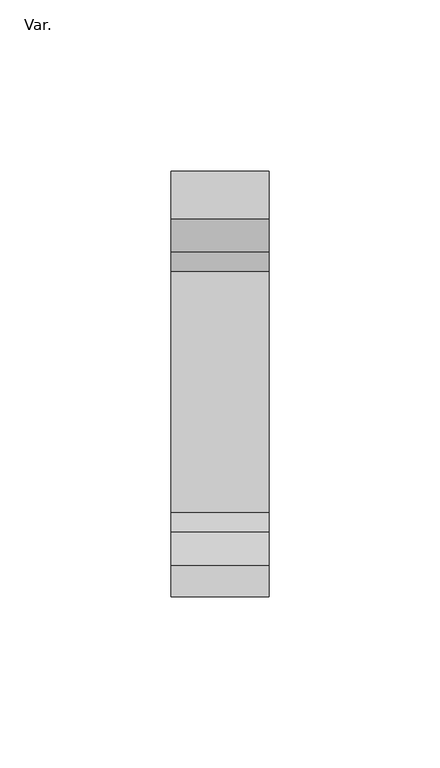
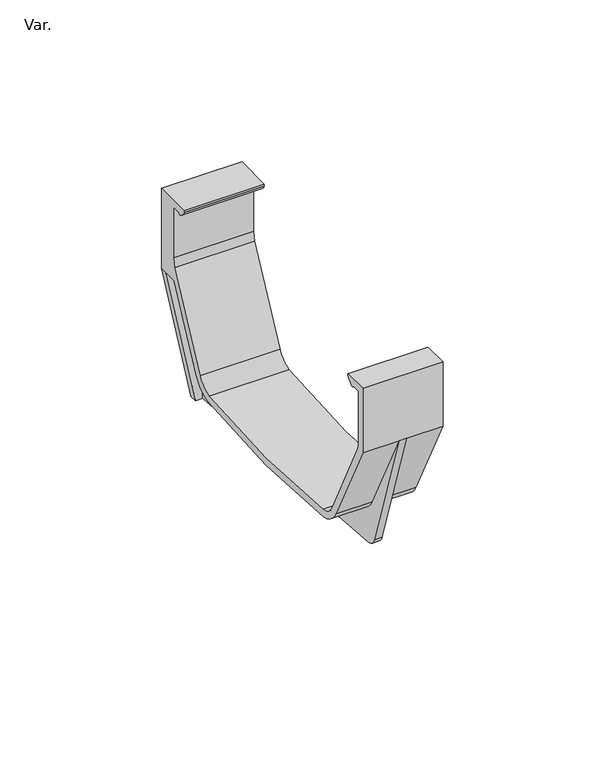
"""IFC4 building model written with IfcOpenShell, lengths in millimetres: pipe fitting geometry, PavcoWavin_UnionesDeTuberia_ZCanal Raingo_Soporte_NoUsarUnion : Var.."""

from ifc_helpers import new_model, si_unit, frame, origin, place, context, project, spatial, polyline, circle_curve, source, transform, mapped, element, save
from ifc_brep_helpers import plane_surface, cylinder_surface, revolved_surface, advanced_brep


def var_1a944b97(model_context):
    return source(origin(), model_context, "Body", "AdvancedBrep", [
        advanced_brep(
        [(14.275, -59.74, 57.8143059), (14.275, -43.2123274, 24.6948186), (14.275, -35.5891114, 18.9438504), (14.275, 35.5891114, 18.9438504), (14.275, 43.2123274, 24.6948186), (14.275, 56.7968831, 51.9166501), (14.275, 61.84, 51.9166501), (14.275, 64.46, 51.9166501), (14.275, 64.46, 82.0566501), (14.275, 50.65, 82.0566501), (14.275, 50.65, 81.2566501), (14.275, 53.0835657, 78.8230844), (14.275, 53.8, 79.4666501), (14.275, 57.15, 79.4666501), (14.275, 57.15, 60.3166501), (14.275, 56.4709703, 57.0639679), (14.275, 40.8948641, 25.8513061), (14.275, 35.1949678, 21.5054585), (14.275, -35.1949678, 21.5054585), (14.275, -40.8948641, 25.8513061), (14.275, -56.4709703, 57.0639679), (14.275, -57.15, 60.3166501), (14.275, -57.15, 79.4666501), (14.275, -53.8, 79.4666501), (14.275, -53.0835657, 78.8230844), (14.275, -50.65, 81.2566501), (14.275, -50.65, 82.0566501), (14.275, -59.74, 82.0566501), (-14.275, 64.46, 82.0566501), (-14.275, 64.46, 51.9166501), (-14.275, 61.84, 51.9166501), (-14.275, 56.7968831, 51.9166501), (-14.275, 43.2123274, 24.6948186), (-14.275, 35.5891114, 18.9438504), (-14.275, -35.5891114, 18.9438504), (-14.275, -43.2123274, 24.6948186), (-14.275, -59.74, 57.8143059), (-14.275, -59.74, 82.0566501), (-14.275, -50.65, 82.0566501), (-14.275, -50.65, 81.2566501), (-14.275, -53.0835657, 78.8230844), (-14.275, -53.8, 79.4666501), (-14.275, -57.15, 79.4666501), (-14.275, -57.15, 60.3166501), (-14.275, -56.4709703, 57.0639679), (-14.275, -40.8948641, 25.8513061), (-14.275, -35.1949678, 21.5054585), (-14.275, 35.1949678, 21.5054585), (-14.275, 40.8948641, 25.8513061), (-14.275, 56.4709703, 57.0639679), (-14.275, 57.15, 60.3166501), (-14.275, 57.15, 79.4666501), (-14.275, 53.8, 79.4666501), (-14.275, 53.0835657, 78.8230844), (-14.275, 50.65, 81.2566501), (-14.275, 50.65, 82.0566501), (3.83, 64.46, 0.0), (-3.83, 64.46, 0.0), (-1.265, 61.84, 0.0), (-3.83, 61.84, 0.0), (3.83, 61.84, 0.0), (1.265, 61.84, 0.0), (1.265, -40.2631031, 7.8814014), (-1.265, -40.2631031, 7.8814014), (1.265, -44.6335776, 11.3214876), (-1.265, -44.6335776, 11.3214876), (1.265, -59.74, 57.8143059), (-1.265, -59.74, 57.8143059), (1.265, 43.2123274, 24.6948186), (1.265, 35.5891114, 18.9438504), (1.265, -35.5891114, 18.9438504), (1.265, -43.2123274, 24.6948186), (1.265, 61.84, 51.9166501), (1.265, 56.7968831, 51.9166501), (-1.265, 43.2123274, 24.6948186), (-1.265, 56.7968831, 51.9166501), (-1.265, 61.84, 51.9166501), (-1.265, -43.2123274, 24.6948186), (-1.265, -35.5891114, 18.9438504), (-1.265, 35.5891114, 18.9438504)],
        [
            (0, 1),
            (1, 2, circle_curve(frame((14.275, -33.6203555, 29.4815162), z_axis=(1.0, 0.0, 0.0), x_axis=(0.0, 1.0, 0.0)), 10.72)),
            (2, 3, circle_curve(frame((14.275, 0.0, 324.2666751), z_axis=(1.0, 0.0, 0.0), x_axis=(0.0, -1.0, 0.0)), 307.39)),
            (3, 4, circle_curve(frame((14.275, 33.6203555, 29.4815162), z_axis=(1.0, 0.0, 0.0), x_axis=(0.0, -1.0, 0.0)), 10.72)),
            (4, 5),
            (5, 6),
            (6, 7),
            (7, 8),
            (8, 9),
            (9, 10),
            (10, 11, circle_curve(frame((14.275, 55.4114181, 83.5845026), z_axis=(1.0, 0.0, 0.0), x_axis=(0.0, 1.0, 0.0)), 5.3)),
            (11, 12, circle_curve(frame((14.275, 53.1527286, 79.4666501), z_axis=(1.0, 0.0, 0.0), x_axis=(0.0, 1.0, 0.0)), 0.6472714)),
            (12, 13),
            (13, 14),
            (14, 15, circle_curve(frame((14.275, 49.02, 60.3166501), z_axis=(-1.0, 0.0, 0.0), x_axis=(0.0, -1.0, 0.0)), 8.13)),
            (15, 16),
            (16, 17, circle_curve(frame((14.275, 33.6203555, 29.4815162), z_axis=(-1.0, 0.0, 0.0), x_axis=(0.0, -1.0, 0.0)), 8.13)),
            (17, 18, circle_curve(frame((14.275, 0.0, 324.2666751), z_axis=(-1.0, 0.0, 0.0), x_axis=(0.0, -1.0, 0.0)), 304.8)),
            (18, 19, circle_curve(frame((14.275, -33.6203555, 29.4815162), z_axis=(-1.0, 0.0, 0.0), x_axis=(0.0, 1.0, 0.0)), 8.13)),
            (19, 20),
            (20, 21, circle_curve(frame((14.275, -49.02, 60.3166501), z_axis=(-1.0, 0.0, 0.0), x_axis=(0.0, 1.0, 0.0)), 8.13)),
            (21, 22),
            (22, 23),
            (23, 24, circle_curve(frame((14.275, -53.1527286, 79.4666501), z_axis=(1.0, 0.0, 0.0), x_axis=(0.0, -1.0, 0.0)), 0.6472714)),
            (24, 25, circle_curve(frame((14.275, -55.4114181, 83.5845026), z_axis=(1.0, 0.0, 0.0), x_axis=(0.0, -1.0, 0.0)), 5.3)),
            (25, 26),
            (26, 27),
            (27, 0),
            (28, 29),
            (29, 30),
            (30, 31),
            (31, 32),
            (32, 33, circle_curve(frame((-14.275, 33.6203555, 29.4815162), z_axis=(-1.0, 0.0, 0.0), x_axis=(0.0, -1.0, 0.0)), 10.72)),
            (33, 34, circle_curve(frame((-14.275, 0.0, 324.2666751), z_axis=(-1.0, 0.0, 0.0), x_axis=(0.0, -1.0, 0.0)), 307.39)),
            (34, 35, circle_curve(frame((-14.275, -33.6203555, 29.4815162), z_axis=(-1.0, 0.0, 0.0), x_axis=(0.0, 1.0, 0.0)), 10.72)),
            (35, 36),
            (36, 37),
            (37, 38),
            (38, 39),
            (39, 40, circle_curve(frame((-14.275, -55.4114181, 83.5845026), z_axis=(-1.0, 0.0, 0.0), x_axis=(0.0, -1.0, 0.0)), 5.3)),
            (40, 41, circle_curve(frame((-14.275, -53.1527286, 79.4666501), z_axis=(-1.0, 0.0, 0.0), x_axis=(0.0, -1.0, 0.0)), 0.6472714)),
            (41, 42),
            (42, 43),
            (43, 44, circle_curve(frame((-14.275, -49.02, 60.3166501), z_axis=(1.0, 0.0, 0.0), x_axis=(0.0, 1.0, 0.0)), 8.13)),
            (44, 45),
            (45, 46, circle_curve(frame((-14.275, -33.6203555, 29.4815162), z_axis=(1.0, 0.0, 0.0), x_axis=(0.0, 1.0, 0.0)), 8.13)),
            (46, 47, circle_curve(frame((-14.275, 0.0, 324.2666751), z_axis=(1.0, 0.0, 0.0), x_axis=(0.0, -1.0, 0.0)), 304.8)),
            (47, 48, circle_curve(frame((-14.275, 33.6203555, 29.4815162), z_axis=(1.0, 0.0, 0.0), x_axis=(0.0, -1.0, 0.0)), 8.13)),
            (48, 49),
            (49, 50, circle_curve(frame((-14.275, 49.02, 60.3166501), z_axis=(1.0, 0.0, 0.0), x_axis=(0.0, -1.0, 0.0)), 8.13)),
            (50, 51),
            (51, 52),
            (52, 53, circle_curve(frame((-14.275, 53.1527286, 79.4666501), z_axis=(-1.0, 0.0, 0.0), x_axis=(0.0, 1.0, 0.0)), 0.6472714)),
            (53, 54, circle_curve(frame((-14.275, 55.4114181, 83.5845026), z_axis=(-1.0, 0.0, 0.0), x_axis=(0.0, 1.0, 0.0)), 5.3)),
            (54, 55),
            (55, 28),
            (7, 56),
            (56, 57),
            (57, 29),
            (28, 8),
            (26, 38),
            (37, 27),
            (25, 39),
            (24, 40),
            (23, 41),
            (22, 42),
            (13, 51),
            (50, 14),
            (12, 52),
            (11, 53),
            (10, 54),
            (9, 55),
            (21, 43),
            (20, 44),
            (19, 45),
            (18, 46),
            (17, 47),
            (16, 48),
            (15, 49),
            (58, 59),
            (59, 57),
            (56, 60),
            (60, 61),
            (61, 58),
            (62, 63),
            (63, 58),
            (61, 62),
            (64, 65),
            (65, 63, circle_curve(frame((-1.265, -39.8782947, 12.8665717), z_axis=(1.0, 0.0, 0.0), x_axis=(0.0, -1.0, 0.0)), 5.0)),
            (62, 64, circle_curve(frame((1.265, -39.8782947, 12.8665717), z_axis=(-1.0, 0.0, 0.0), x_axis=(0.0, -1.0, 0.0)), 5.0)),
            (66, 67),
            (67, 65),
            (64, 66),
            (36, 67),
            (66, 0),
            (68, 69, circle_curve(frame((1.265, 33.6203555, 29.4815162), z_axis=(-1.0, 0.0, 0.0), x_axis=(0.0, -1.0, 0.0)), 10.72)),
            (69, 70, circle_curve(frame((1.265, 0.0, 324.2666751), z_axis=(-1.0, 0.0, 0.0), x_axis=(0.0, -1.0, 0.0)), 307.39)),
            (70, 71, circle_curve(frame((1.265, -33.6203555, 29.4815162), z_axis=(-1.0, 0.0, 0.0), x_axis=(0.0, 1.0, 0.0)), 10.72)),
            (71, 66),
            (61, 72),
            (72, 73),
            (73, 68),
            (73, 5),
            (4, 68),
            (72, 6),
            (60, 6),
            (71, 1),
            (70, 2),
            (69, 3),
            (74, 75),
            (75, 76),
            (76, 58),
            (67, 77),
            (77, 78, circle_curve(frame((-1.265, -33.6203555, 29.4815162), z_axis=(1.0, 0.0, 0.0), x_axis=(0.0, 1.0, 0.0)), 10.72)),
            (78, 79, circle_curve(frame((-1.265, 0.0, 324.2666751), z_axis=(1.0, 0.0, 0.0), x_axis=(0.0, -1.0, 0.0)), 307.39)),
            (79, 74, circle_curve(frame((-1.265, 33.6203555, 29.4815162), z_axis=(1.0, 0.0, 0.0), x_axis=(0.0, -1.0, 0.0)), 10.72)),
            (74, 32),
            (31, 75),
            (30, 76),
            (30, 59),
            (35, 77),
            (34, 78),
            (33, 79),
        ],
        [
            plane_surface(frame((14.275, 64.46, 0.0), z_axis=(1.0, 0.0, 0.0), x_axis=(0.0, 0.0, -1.0))),
            plane_surface(frame((-14.275, 64.46, 0.0), z_axis=(-1.0, 0.0, 0.0), x_axis=(0.0, 0.0, 1.0))),
            plane_surface(frame((14.275, 64.46, 82.0566501), z_axis=(0.0, 1.0, 0.0), x_axis=(-1.0, 0.0, 0.0))),
            plane_surface(frame((14.275, -59.74, 82.0566501), z_axis=(0.0, 0.0, 1.0), x_axis=(-1.0, 0.0, 0.0))),
            plane_surface(frame((14.275, -50.65, 82.0566501), z_axis=(0.0, 1.0, 0.0), x_axis=(-1.0, 0.0, 0.0))),
            cylinder_surface(frame((-14.275, -55.4114181, 83.5845026), z_axis=(1.0, 0.0, 0.0), x_axis=(0.0, -1.0, 0.0)), 5.3),
            cylinder_surface(frame((-14.275, -53.1527286, 79.4666501), z_axis=(1.0, 0.0, 0.0), x_axis=(0.0, -1.0, 0.0)), 0.6472714),
            plane_surface(frame((14.275, -53.8, 79.4666501), z_axis=(0.0, 0.0, -1.0), x_axis=(-1.0, 0.0, 0.0))),
            plane_surface(frame((14.275, 57.15, 60.3166501), z_axis=(0.0, -1.0, 0.0), x_axis=(-1.0, 0.0, 0.0))),
            plane_surface(frame((14.275, 57.15, 79.4666501), z_axis=(0.0, 0.0, -1.0), x_axis=(-1.0, 0.0, 0.0))),
            cylinder_surface(frame((-14.275, 53.1527286, 79.4666501), z_axis=(1.0, 0.0, 0.0), x_axis=(0.0, 1.0, 0.0)), 0.6472714),
            cylinder_surface(frame((-14.275, 55.4114181, 83.5845026), z_axis=(1.0, 0.0, 0.0), x_axis=(0.0, 1.0, 0.0)), 5.3),
            plane_surface(frame((14.275, 50.65, 81.2566501), z_axis=(0.0, -1.0, 0.0), x_axis=(-1.0, 0.0, 0.0))),
            plane_surface(frame((14.275, 50.65, 82.0566501), z_axis=(0.0, 0.0, 1.0), x_axis=(-1.0, 0.0, 0.0))),
            plane_surface(frame((14.275, -57.15, 79.4666501), z_axis=(0.0, 1.0, 0.0), x_axis=(-1.0, 0.0, 0.0))),
            revolved_surface(polyline([(-14.275, -40.89, 60.3166501), (14.275, -40.89, 60.3166501)]), (-14.275, -49.02, 60.3166501), (-1.0, 0.0, 0.0)),
            plane_surface(frame((14.275, -56.4709703, 57.0639679), z_axis=(0.0, 0.8947735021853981, 0.4465203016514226), x_axis=(-1.0, 0.0, 0.0))),
            revolved_surface(polyline([(-14.275, -25.4903555, 29.4815162), (14.275, -25.4903555, 29.4815162)]), (-14.275, -33.6203555, 29.4815162), (-1.0, 0.0, 0.0)),
            revolved_surface(polyline([(-14.275, -304.8, 324.2666751), (14.275, -304.8, 324.2666751)]), (-14.275, 0.0, 324.2666751), (-1.0, 0.0, 0.0)),
            revolved_surface(polyline([(-14.275, 25.4903555, 29.4815162), (14.275, 25.4903555, 29.4815162)]), (-14.275, 33.6203555, 29.4815162), (-1.0, 0.0, 0.0)),
            plane_surface(frame((14.275, 40.8948641, 25.8513061), z_axis=(0.0, -0.8947735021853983, 0.4465203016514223), x_axis=(-1.0, 0.0, 0.0))),
            revolved_surface(polyline([(-14.275, 40.89, 60.3166501), (14.275, 40.89, 60.3166501)]), (-14.275, 49.02, 60.3166501), (-1.0, 0.0, 0.0)),
            plane_surface(frame((14.275, 64.46, 0.0), z_axis=(0.0, 0.0, -1.0), x_axis=(-1.0, 0.0, 0.0))),
            plane_surface(frame((14.275, 61.84, 0.0), z_axis=(0.0, -0.07696167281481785, -0.9970340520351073), x_axis=(-1.0, 0.0, 0.0))),
            cylinder_surface(frame((-14.275, -39.8782947, 12.8665717), z_axis=(1.0, 0.0, 0.0), x_axis=(0.0, -1.0, 0.0)), 5.0),
            plane_surface(frame((14.275, -44.6335776, 11.3214876), z_axis=(0.0, -0.9510565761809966, -0.30901681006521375), x_axis=(-1.0, 0.0, 0.0))),
            plane_surface(frame((14.275, -59.74, 57.8143059), z_axis=(0.0, -1.0, 0.0), x_axis=(-1.0, 0.0, 0.0))),
            plane_surface(frame((1.265, 58.7884337, 55.9074803), z_axis=(1.0000000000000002, 0.0, 0.0), x_axis=(0.0, -0.44652030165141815, -0.8947735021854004))),
            plane_surface(frame((14.275, 43.2123274, 24.6948186), z_axis=(0.0, 0.8947735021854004, -0.44652030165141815), x_axis=(-1.0, 0.0, 0.0))),
            plane_surface(frame((14.275, 56.7968831, 51.9166501), z_axis=(0.0, 0.0, -1.0), x_axis=(-1.0, 0.0, 0.0))),
            plane_surface(frame((14.275, 61.84, 51.9166501), z_axis=(0.0, -1.0, 0.0), x_axis=(-1.0, 0.0, 0.0))),
            plane_surface(frame((14.275, -59.74, 57.8143059), z_axis=(0.0, -0.8947735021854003, -0.44652030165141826), x_axis=(-1.0, 0.0, 0.0))),
            cylinder_surface(frame((1.265, -33.6203555, 29.4815162), z_axis=(-1.0, 0.0, 0.0), x_axis=(0.0, 1.0, 0.0)), 10.72),
            cylinder_surface(frame((1.265, 0.0, 324.2666751), z_axis=(-1.0, 0.0, 0.0), x_axis=(0.0, -1.0, 0.0)), 307.39),
            cylinder_surface(frame((1.265, 33.6203555, 29.4815162), z_axis=(-1.0, 0.0, 0.0), x_axis=(0.0, -1.0, 0.0)), 10.72),
            plane_surface(frame((-1.265, 22.9003555, 29.4815162), z_axis=(-1.0, 0.0, 0.0), x_axis=(0.0, 0.0, -1.0))),
            plane_surface(frame((-14.275, 56.7968831, 51.9166501), z_axis=(0.0, 0.8947735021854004, -0.44652030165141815), x_axis=(1.0, 0.0, 0.0))),
            plane_surface(frame((-14.275, 61.84, 51.9166501), z_axis=(0.0, 0.0, -1.0), x_axis=(1.0, 0.0, 0.0))),
            plane_surface(frame((-14.275, 61.84, 0.0), z_axis=(0.0, -1.0, 0.0), x_axis=(1.0, 0.0, 0.0))),
            plane_surface(frame((-14.275, -43.2123274, 24.6948186), z_axis=(0.0, -0.8947735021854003, -0.44652030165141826), x_axis=(1.0, 0.0, 0.0))),
            cylinder_surface(frame((-1.265, -33.6203555, 29.4815162), z_axis=(1.0, 0.0, 0.0), x_axis=(0.0, 1.0, 0.0)), 10.72),
            cylinder_surface(frame((-1.265, 0.0, 324.2666751), z_axis=(1.0, 0.0, 0.0), x_axis=(0.0, -1.0, 0.0)), 307.39),
            cylinder_surface(frame((-1.265, 33.6203555, 29.4815162), z_axis=(1.0, 0.0, 0.0), x_axis=(0.0, -1.0, 0.0)), 10.72),
            plane_surface(frame((-3.83, 64.46, 0.0), z_axis=(-0.9803560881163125, 0.0, -0.19723574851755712), x_axis=(0.0, -1.0, 0.0))),
            plane_surface(frame((14.275, 64.46, 51.9166501), z_axis=(0.9803560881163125, 0.0, -0.19723574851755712), x_axis=(0.0, -1.0, 0.0))),
        ],
        [
            (0, [[1, 2, 3, 4, 5, 6, 7, 8, 9, 10, 11, 12, 13, 14, 15, 16, 17, 18, 19, 20, 21, 22, 23, 24, 25, 26, 27, 28]]),
            (1, [[29, 30, 31, 32, 33, 34, 35, 36, 37, 38, 39, 40, 41, 42, 43, 44, 45, 46, 47, 48, 49, 50, 51, 52, 53, 54, 55, 56]]),
            (2, [[-8, 57, 58, 59, -29, 60]]),
            (3, [[61, -38, 62, -27]]),
            (4, [[63, -39, -61, -26]]),
            (5, [[64, -40, -63, -25]]),
            (6, [[65, -41, -64, -24]]),
            (7, [[66, -42, -65, -23]]),
            (8, [[67, -51, 68, -14]]),
            (9, [[69, -52, -67, -13]]),
            (10, [[70, -53, -69, -12]]),
            (11, [[71, -54, -70, -11]]),
            (12, [[72, -55, -71, -10]]),
            (13, [[-60, -56, -72, -9]]),
            (14, [[73, -43, -66, -22]]),
            (15, [[74, -44, -73, -21]]),
            (16, [[75, -45, -74, -20]]),
            (17, [[76, -46, -75, -19]]),
            (18, [[77, -47, -76, -18]]),
            (19, [[78, -48, -77, -17]]),
            (20, [[79, -49, -78, -16]]),
            (21, [[-68, -50, -79, -15]]),
            (22, [[80, 81, -58, 82, 83, 84]]),
            (23, [[85, 86, -84, 87]]),
            (24, [[88, 89, -85, 90]]),
            (25, [[91, 92, -88, 93]]),
            (26, [[-62, -37, 94, -91, 95, -28]]),
            (27, [[96, 97, 98, 99, -93, -90, -87, 100, 101, 102]]),
            (28, [[103, -5, 104, -102]]),
            (29, [[105, -6, -103, -101]]),
            (30, [[-83, 106, -105, -100]]),
            (31, [[107, -1, -95, -99]]),
            (32, [[108, -2, -107, -98]]),
            (33, [[109, -3, -108, -97]]),
            (34, [[-104, -4, -109, -96]]),
            (35, [[110, 111, 112, -86, -89, -92, 113, 114, 115, 116]]),
            (36, [[117, -32, 118, -110]]),
            (37, [[-118, -31, 119, -111]]),
            (38, [[-119, 120, -80, -112]]),
            (39, [[-94, -36, 121, -113]]),
            (40, [[-121, -35, 122, -114]]),
            (41, [[-122, -34, 123, -115]]),
            (42, [[-123, -33, -117, -116]]),
            (43, [[-59, -81, -120, -30]]),
            (44, [[-106, -82, -57, -7]]),
        ],
    ),
    ])


if __name__ == "__main__":
    model = new_model("IFC4")
    model_context = context("Model", 3, world=origin())
    ifc_project = project(units=[si_unit("LENGTHUNIT", "METRE", prefix="MILLI")], contexts=[model_context])
    site = spatial("IfcSite", under=ifc_project)
    building = spatial("IfcBuilding", under=site)
    placement = place(None, origin())
    var_shape = var_1a944b97(model_context)
    element("IfcPipeFitting", 1, ObjectType="PavcoWavin_UnionesDeTuberia_ZCanal Raingo_Soporte_NoUsarUnion : Var.", at=placement, inside=building, context=model_context, shape_type="MappedRepresentation", body=[
        mapped(var_shape, transform((0.0, 0.0, 0.0), x_axis=(1.0, 0.0, 0.0), y_axis=(0.0, 1.0, 0.0), z_axis=(0.0, 0.0, 1.0))),
    ])
    save(model, "model.ifc")
